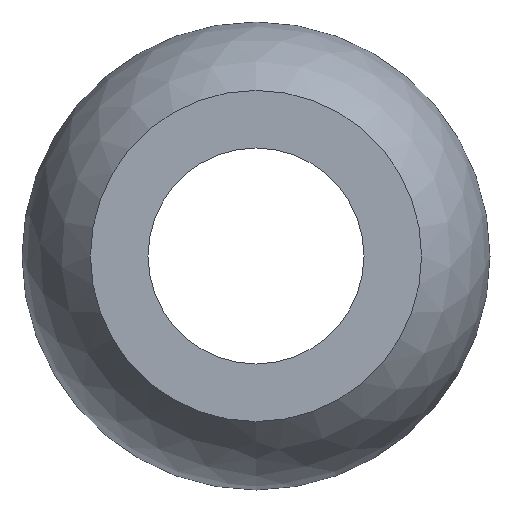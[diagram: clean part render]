
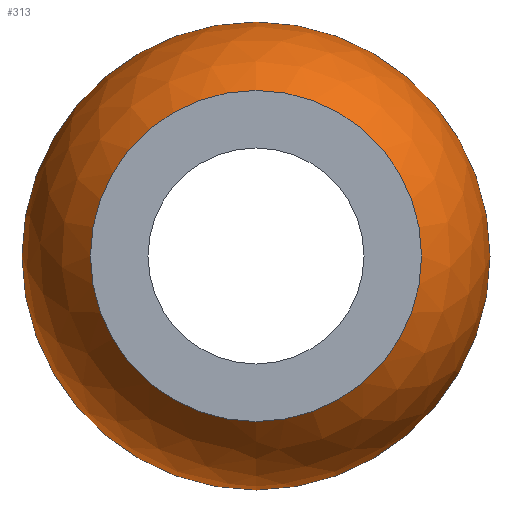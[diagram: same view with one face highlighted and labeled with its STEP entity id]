
A CAD part, front view. The second image highlights one B-rep face of the part: STEP entity #313.
In plain terms, the highlighted spherical face has radius 3.25 mm.
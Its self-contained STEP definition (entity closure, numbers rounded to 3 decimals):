
#2 = DIRECTION ( 'NONE',  ( 0., -1., 0. ) ) ;
#5 = EDGE_LOOP ( 'NONE', ( #183, #321 ) ) ;
#18 = CARTESIAN_POINT ( 'NONE',  ( -3.25, 0., 0. ) ) ;
#21 = CARTESIAN_POINT ( 'NONE',  ( 0., -2.296, 0. ) ) ;
#26 = CIRCLE ( 'NONE', #294, 3.25 ) ;
#29 = EDGE_CURVE ( 'NONE', #128, #202, #26, .T. ) ;
#30 = CARTESIAN_POINT ( 'NONE',  ( 0., 0., 0. ) ) ;
#33 = ORIENTED_EDGE ( 'NONE', *, *, #234, .T. ) ;
#44 = CARTESIAN_POINT ( 'NONE',  ( 0., -2.296, -2.3 ) ) ;
#72 = DIRECTION ( 'NONE',  ( 0., -1., 0. ) ) ;
#78 = VERTEX_POINT ( 'NONE', #44 ) ;
#84 = AXIS2_PLACEMENT_3D ( 'NONE', #30, #2, #184 ) ;
#86 = DIRECTION ( 'NONE',  ( 0., 1., 0. ) ) ;
#94 = CARTESIAN_POINT ( 'NONE',  ( 3.25, 0., 0. ) ) ;
#106 = AXIS2_PLACEMENT_3D ( 'NONE', #156, #158, #154 ) ;
#107 = DIRECTION ( 'NONE',  ( 0., 0., 1. ) ) ;
#118 = FACE_BOUND ( 'NONE', #239, .T. ) ;
#128 = VERTEX_POINT ( 'NONE', #94 ) ;
#136 = SPHERICAL_SURFACE ( 'NONE', #84, 3.25 ) ;
#154 = DIRECTION ( 'NONE',  ( 0., 0., 1. ) ) ;
#156 = CARTESIAN_POINT ( 'NONE',  ( 0., -2.296, 0. ) ) ;
#158 = DIRECTION ( 'NONE',  ( 0., 1., 0. ) ) ;
#167 = FACE_OUTER_BOUND ( 'NONE', #5, .T. ) ;
#177 = CIRCLE ( 'NONE', #283, 3.25 ) ;
#183 = ORIENTED_EDGE ( 'NONE', *, *, #29, .F. ) ;
#184 = DIRECTION ( 'NONE',  ( 0., 0., -1. ) ) ;
#192 = ORIENTED_EDGE ( 'NONE', *, *, #309, .T. ) ;
#202 = VERTEX_POINT ( 'NONE', #18 ) ;
#220 = CIRCLE ( 'NONE', #106, 2.3 ) ;
#227 = DIRECTION ( 'NONE',  ( 0., 0., 1. ) ) ;
#234 = EDGE_CURVE ( 'NONE', #78, #286, #279, .T. ) ;
#235 = CARTESIAN_POINT ( 'NONE',  ( 0., -2.296, 2.3 ) ) ;
#239 = EDGE_LOOP ( 'NONE', ( #33, #192 ) ) ;
#255 = EDGE_CURVE ( 'NONE', #128, #202, #177, .T. ) ;
#262 = AXIS2_PLACEMENT_3D ( 'NONE', #21, #293, #227 ) ;
#279 = CIRCLE ( 'NONE', #262, 2.3 ) ;
#283 = AXIS2_PLACEMENT_3D ( 'NONE', #318, #72, #295 ) ;
#286 = VERTEX_POINT ( 'NONE', #235 ) ;
#293 = DIRECTION ( 'NONE',  ( 0., 1., 0. ) ) ;
#294 = AXIS2_PLACEMENT_3D ( 'NONE', #308, #86, #107 ) ;
#295 = DIRECTION ( 'NONE',  ( 0., 0., -1. ) ) ;
#308 = CARTESIAN_POINT ( 'NONE',  ( 0., 0., 0. ) ) ;
#309 = EDGE_CURVE ( 'NONE', #286, #78, #220, .T. ) ;
#313 = ADVANCED_FACE ( 'NONE', ( #118, #167 ), #136, .T. ) ;
#318 = CARTESIAN_POINT ( 'NONE',  ( 0., 0., 0. ) ) ;
#321 = ORIENTED_EDGE ( 'NONE', *, *, #255, .T. ) ;
